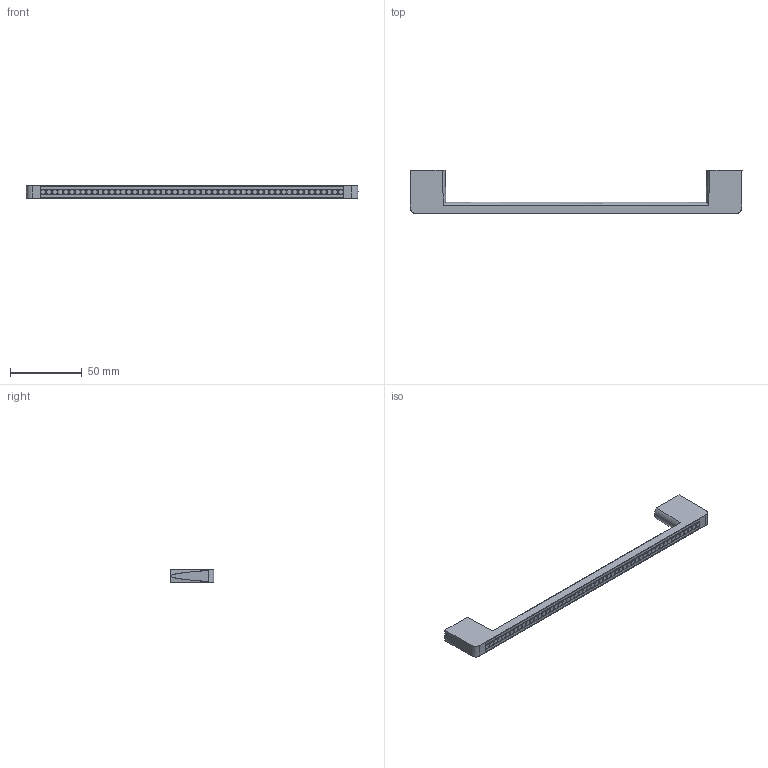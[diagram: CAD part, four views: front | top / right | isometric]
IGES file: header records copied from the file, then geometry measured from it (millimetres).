
Start section: Data from Parasolid IGES Translator 15.0.47, Copyright(c) 2006 Siemens P LM Software. All Rights Reserved.
Global section: file name: 9113680.igs; native system:  By UGS Corp.; preprocessor: XPlus GENERIC/IGES 3.0; author: Noname; organization: Noname; date: 20140122.170634; units: millimetre
Bounding box: 232 x 30.4 x 9 mm (x, y, z)
Surface area: 12785.6 mm2 (no closed solid volume)
Topology: 0 solids, 0 shells, 509 faces, 3171 edges, 2963 vertices
Faces by surface type: extrusion 283, revolution 226
